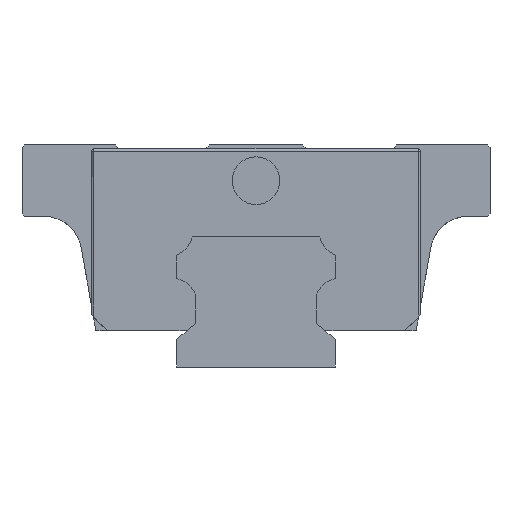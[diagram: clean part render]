
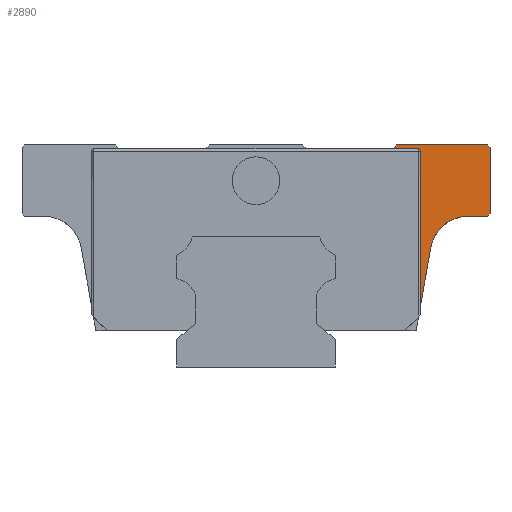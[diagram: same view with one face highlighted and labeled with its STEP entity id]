
A CAD part, left-side view. The second image highlights one B-rep face of the part: STEP entity #2890.
In plain terms, the highlighted planar face has unit normal (-1, 0, 0).
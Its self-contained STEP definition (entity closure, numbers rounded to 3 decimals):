
#4 = DIRECTION ( 'NONE',  ( 1., 0., 0. ) ) ;
#98 = DIRECTION ( 'NONE',  ( 0., 0., 1. ) ) ;
#231 = LINE ( 'NONE', #305, #2196 ) ;
#246 = ORIENTED_EDGE ( 'NONE', *, *, #6523, .T. ) ;
#284 = ORIENTED_EDGE ( 'NONE', *, *, #1285, .T. ) ;
#305 = CARTESIAN_POINT ( 'NONE',  ( -23.35, -29.5, 19. ) ) ;
#402 = CARTESIAN_POINT ( 'NONE',  ( -23.35, -17.28, 27.5 ) ) ;
#426 = CARTESIAN_POINT ( 'NONE',  ( -23.35, -20.455, 27.205 ) ) ;
#462 = VECTOR ( 'NONE', #5498, 1000. ) ;
#543 = CIRCLE ( 'NONE', #4101, 4.75 ) ;
#803 = VERTEX_POINT ( 'NONE', #3419 ) ;
#985 = VERTEX_POINT ( 'NONE', #1935 ) ;
#988 = EDGE_CURVE ( 'NONE', #2589, #7286, #543, .T. ) ;
#1007 = VERTEX_POINT ( 'NONE', #6023 ) ;
#1180 = DIRECTION ( 'NONE',  ( 0., 0., 1. ) ) ;
#1257 = VERTEX_POINT ( 'NONE', #3977 ) ;
#1267 = VERTEX_POINT ( 'NONE', #2892 ) ;
#1285 = EDGE_CURVE ( 'NONE', #5710, #985, #1659, .T. ) ;
#1307 = VERTEX_POINT ( 'NONE', #5115 ) ;
#1388 = DIRECTION ( 'NONE',  ( 0., 0.707, 0.707 ) ) ;
#1400 = CARTESIAN_POINT ( 'NONE',  ( -23.35, -17.7, 28. ) ) ;
#1536 = ORIENTED_EDGE ( 'NONE', *, *, #2450, .T. ) ;
#1599 = CARTESIAN_POINT ( 'NONE',  ( -23.35, -26.714, 19. ) ) ;
#1659 = LINE ( 'NONE', #7484, #5541 ) ;
#1733 = DIRECTION ( 'NONE',  ( 0., 0., 1. ) ) ;
#1756 = LINE ( 'NONE', #7073, #3021 ) ;
#1927 = ORIENTED_EDGE ( 'NONE', *, *, #988, .T. ) ;
#1935 = CARTESIAN_POINT ( 'NONE',  ( -23.35, -29.5, 19.295 ) ) ;
#2003 = DIRECTION ( 'NONE',  ( 0., 0., 1. ) ) ;
#2074 = AXIS2_PLACEMENT_3D ( 'NONE', #426, #4, #1733 ) ;
#2196 = VECTOR ( 'NONE', #2003, 1000. ) ;
#2393 = CARTESIAN_POINT ( 'NONE',  ( -23.35, -29.205, 19. ) ) ;
#2410 = EDGE_CURVE ( 'NONE', #1257, #1267, #5364, .T. ) ;
#2450 = EDGE_CURVE ( 'NONE', #7286, #5710, #4074, .T. ) ;
#2589 = VERTEX_POINT ( 'NONE', #6208 ) ;
#2666 = ORIENTED_EDGE ( 'NONE', *, *, #2410, .T. ) ;
#2682 = ORIENTED_EDGE ( 'NONE', *, *, #6298, .T. ) ;
#2817 = VECTOR ( 'NONE', #7477, 1000. ) ;
#2858 = EDGE_CURVE ( 'NONE', #1007, #1267, #1756, .T. ) ;
#2890 = ADVANCED_FACE ( 'NONE', ( #2989 ), #6534, .T. ) ;
#2892 = CARTESIAN_POINT ( 'NONE',  ( -23.35, -20.75, 27.205 ) ) ;
#2989 = FACE_OUTER_BOUND ( 'NONE', #6434, .T. ) ;
#3004 = VERTEX_POINT ( 'NONE', #6156 ) ;
#3021 = VECTOR ( 'NONE', #98, 1000. ) ;
#3246 = LINE ( 'NONE', #6664, #4781 ) ;
#3419 = CARTESIAN_POINT ( 'NONE',  ( -23.35, -29.5, 27.705 ) ) ;
#3614 = LINE ( 'NONE', #5924, #3684 ) ;
#3642 = VECTOR ( 'NONE', #6388, 1000. ) ;
#3684 = VECTOR ( 'NONE', #5217, 1000. ) ;
#3706 = LINE ( 'NONE', #6047, #5614 ) ;
#3713 = DIRECTION ( 'NONE',  ( 0., 0., 1. ) ) ;
#3977 = CARTESIAN_POINT ( 'NONE',  ( -23.35, -20.455, 27.5 ) ) ;
#4074 = LINE ( 'NONE', #6938, #3642 ) ;
#4101 = AXIS2_PLACEMENT_3D ( 'NONE', #7015, #4195, #3713 ) ;
#4117 = AXIS2_PLACEMENT_3D ( 'NONE', #4713, #6413, #1180 ) ;
#4195 = DIRECTION ( 'NONE',  ( 1., 0., 0. ) ) ;
#4320 = LINE ( 'NONE', #1400, #462 ) ;
#4389 = DIRECTION ( 'NONE',  ( 0., 1., 0. ) ) ;
#4592 = ORIENTED_EDGE ( 'NONE', *, *, #7472, .T. ) ;
#4713 = CARTESIAN_POINT ( 'NONE',  ( -23.35, -8.741, 4.6 ) ) ;
#4781 = VECTOR ( 'NONE', #4389, 1000. ) ;
#5115 = CARTESIAN_POINT ( 'NONE',  ( -23.35, -17.7, 28. ) ) ;
#5149 = CARTESIAN_POINT ( 'NONE',  ( -23.35, -20.542, 27.5 ) ) ;
#5217 = DIRECTION ( 'NONE',  ( 0., -0.174, 0.985 ) ) ;
#5364 = CIRCLE ( 'NONE', #2074, 0.295 ) ;
#5498 = DIRECTION ( 'NONE',  ( 0., 0.643, -0.766 ) ) ;
#5541 = VECTOR ( 'NONE', #7555, 1000. ) ;
#5614 = VECTOR ( 'NONE', #1388, 1000. ) ;
#5643 = ORIENTED_EDGE ( 'NONE', *, *, #2858, .F. ) ;
#5673 = LINE ( 'NONE', #5149, #2817 ) ;
#5710 = VERTEX_POINT ( 'NONE', #2393 ) ;
#5924 = CARTESIAN_POINT ( 'NONE',  ( -23.35, -20.189, 4.6 ) ) ;
#5959 = EDGE_CURVE ( 'NONE', #1307, #6704, #4320, .T. ) ;
#6023 = CARTESIAN_POINT ( 'NONE',  ( -23.35, -20.75, 7.78 ) ) ;
#6047 = CARTESIAN_POINT ( 'NONE',  ( -23.35, -30.673, 26.532 ) ) ;
#6156 = CARTESIAN_POINT ( 'NONE',  ( -23.35, -29.205, 28. ) ) ;
#6208 = CARTESIAN_POINT ( 'NONE',  ( -23.35, -22.036, 15.075 ) ) ;
#6248 = ORIENTED_EDGE ( 'NONE', *, *, #5959, .T. ) ;
#6261 = EDGE_CURVE ( 'NONE', #803, #3004, #3706, .T. ) ;
#6298 = EDGE_CURVE ( 'NONE', #985, #803, #231, .T. ) ;
#6388 = DIRECTION ( 'NONE',  ( 0., -1., 0. ) ) ;
#6398 = EDGE_CURVE ( 'NONE', #1257, #6704, #5673, .T. ) ;
#6413 = DIRECTION ( 'NONE',  ( -1., 0., 0. ) ) ;
#6434 = EDGE_LOOP ( 'NONE', ( #6248, #6737, #2666, #5643, #246, #1927, #1536, #284, #2682, #7122, #4592 ) ) ;
#6523 = EDGE_CURVE ( 'NONE', #1007, #2589, #3614, .T. ) ;
#6534 = PLANE ( 'NONE',  #4117 ) ;
#6664 = CARTESIAN_POINT ( 'NONE',  ( -23.35, -29.5, 28. ) ) ;
#6704 = VERTEX_POINT ( 'NONE', #402 ) ;
#6737 = ORIENTED_EDGE ( 'NONE', *, *, #6398, .F. ) ;
#6938 = CARTESIAN_POINT ( 'NONE',  ( -23.35, -22.728, 19. ) ) ;
#7015 = CARTESIAN_POINT ( 'NONE',  ( -23.35, -26.714, 14.25 ) ) ;
#7073 = CARTESIAN_POINT ( 'NONE',  ( -23.35, -20.75, 6.6 ) ) ;
#7122 = ORIENTED_EDGE ( 'NONE', *, *, #6261, .T. ) ;
#7286 = VERTEX_POINT ( 'NONE', #1599 ) ;
#7472 = EDGE_CURVE ( 'NONE', #3004, #1307, #3246, .T. ) ;
#7477 = DIRECTION ( 'NONE',  ( 0., 1., 0. ) ) ;
#7484 = CARTESIAN_POINT ( 'NONE',  ( -23.35, -11.773, 1.568 ) ) ;
#7555 = DIRECTION ( 'NONE',  ( 0., -0.707, 0.707 ) ) ;
